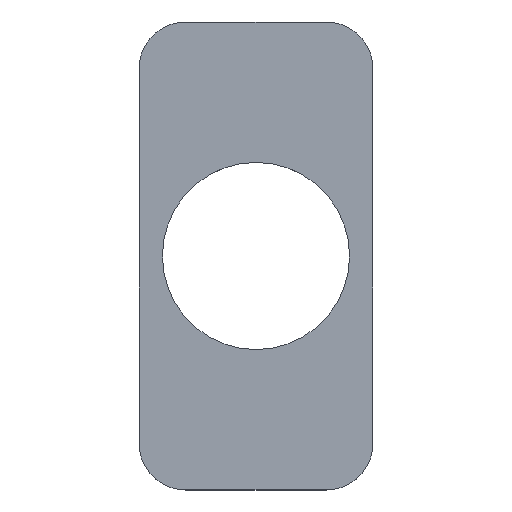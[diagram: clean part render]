
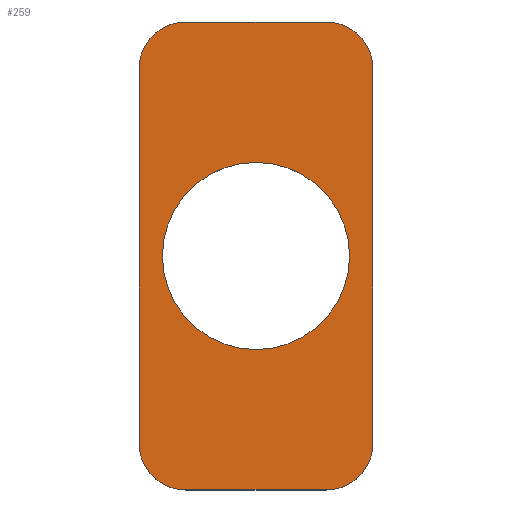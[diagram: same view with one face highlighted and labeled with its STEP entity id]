
A CAD part, top view. The second image highlights one B-rep face of the part: STEP entity #259.
In plain terms, the highlighted planar face has unit normal (0, 0, 1).
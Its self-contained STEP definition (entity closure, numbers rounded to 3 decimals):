
#18=FACE_BOUND('',#59,.T.);
#22=PLANE('',#306);
#39=FACE_OUTER_BOUND('',#58,.T.);
#58=EDGE_LOOP('',(#204,#205,#206,#207,#208,#209,#210,#211));
#59=EDGE_LOOP('',(#212));
#76=LINE('',#446,#96);
#77=LINE('',#450,#97);
#78=LINE('',#454,#98);
#79=LINE('',#458,#99);
#96=VECTOR('',#363,10.);
#97=VECTOR('',#366,10.);
#98=VECTOR('',#369,10.);
#99=VECTOR('',#372,10.);
#112=CIRCLE('',#294,10.);
#121=CIRCLE('',#307,5.);
#122=CIRCLE('',#308,5.);
#123=CIRCLE('',#309,5.);
#124=CIRCLE('',#310,5.);
#127=VERTEX_POINT('',#413);
#140=VERTEX_POINT('',#444);
#141=VERTEX_POINT('',#445);
#142=VERTEX_POINT('',#447);
#143=VERTEX_POINT('',#449);
#144=VERTEX_POINT('',#451);
#145=VERTEX_POINT('',#453);
#146=VERTEX_POINT('',#455);
#147=VERTEX_POINT('',#457);
#152=EDGE_CURVE('',#127,#127,#112,.T.);
#165=EDGE_CURVE('',#140,#141,#76,.T.);
#166=EDGE_CURVE('',#141,#142,#121,.T.);
#167=EDGE_CURVE('',#142,#143,#77,.T.);
#168=EDGE_CURVE('',#143,#144,#122,.T.);
#169=EDGE_CURVE('',#144,#145,#78,.T.);
#170=EDGE_CURVE('',#145,#146,#123,.T.);
#171=EDGE_CURVE('',#146,#147,#79,.T.);
#172=EDGE_CURVE('',#147,#140,#124,.T.);
#204=ORIENTED_EDGE('',*,*,#165,.T.);
#205=ORIENTED_EDGE('',*,*,#166,.T.);
#206=ORIENTED_EDGE('',*,*,#167,.T.);
#207=ORIENTED_EDGE('',*,*,#168,.T.);
#208=ORIENTED_EDGE('',*,*,#169,.T.);
#209=ORIENTED_EDGE('',*,*,#170,.T.);
#210=ORIENTED_EDGE('',*,*,#171,.T.);
#211=ORIENTED_EDGE('',*,*,#172,.T.);
#212=ORIENTED_EDGE('',*,*,#152,.T.);
#259=ADVANCED_FACE('',(#39,#18),#22,.T.);
#294=AXIS2_PLACEMENT_3D('',#415,#333,#334);
#306=AXIS2_PLACEMENT_3D('',#443,#361,#362);
#307=AXIS2_PLACEMENT_3D('',#448,#364,#365);
#308=AXIS2_PLACEMENT_3D('',#452,#367,#368);
#309=AXIS2_PLACEMENT_3D('',#456,#370,#371);
#310=AXIS2_PLACEMENT_3D('',#459,#373,#374);
#333=DIRECTION('center_axis',(0.,0.,-1.));
#334=DIRECTION('ref_axis',(-1.,0.,0.));
#361=DIRECTION('center_axis',(0.,0.,1.));
#362=DIRECTION('ref_axis',(1.,0.,0.));
#363=DIRECTION('',(-1.,0.,0.));
#364=DIRECTION('center_axis',(0.,0.,1.));
#365=DIRECTION('ref_axis',(0.,1.,0.));
#366=DIRECTION('',(0.,-1.,0.));
#367=DIRECTION('center_axis',(0.,0.,1.));
#368=DIRECTION('ref_axis',(-1.,0.,0.));
#369=DIRECTION('',(1.,0.,0.));
#370=DIRECTION('center_axis',(0.,0.,1.));
#371=DIRECTION('ref_axis',(0.,-1.,0.));
#372=DIRECTION('',(0.,1.,0.));
#373=DIRECTION('center_axis',(0.,0.,1.));
#374=DIRECTION('ref_axis',(1.,0.,0.));
#413=CARTESIAN_POINT('',(10.,0.065,3.6));
#415=CARTESIAN_POINT('Origin',(0.,0.065,3.6));
#443=CARTESIAN_POINT('Origin',(0.,0.065,3.6));
#444=CARTESIAN_POINT('',(7.5,25.065,3.6));
#445=CARTESIAN_POINT('',(-7.5,25.065,3.6));
#446=CARTESIAN_POINT('',(7.5,25.065,3.6));
#447=CARTESIAN_POINT('',(-12.5,20.065,3.6));
#448=CARTESIAN_POINT('Origin',(-7.5,20.065,3.6));
#449=CARTESIAN_POINT('',(-12.5,-19.935,3.6));
#450=CARTESIAN_POINT('',(-12.5,20.065,3.6));
#451=CARTESIAN_POINT('',(-7.5,-24.935,3.6));
#452=CARTESIAN_POINT('Origin',(-7.5,-19.935,3.6));
#453=CARTESIAN_POINT('',(7.5,-24.935,3.6));
#454=CARTESIAN_POINT('',(-7.5,-24.935,3.6));
#455=CARTESIAN_POINT('',(12.5,-19.935,3.6));
#456=CARTESIAN_POINT('Origin',(7.5,-19.935,3.6));
#457=CARTESIAN_POINT('',(12.5,20.065,3.6));
#458=CARTESIAN_POINT('',(12.5,-19.935,3.6));
#459=CARTESIAN_POINT('Origin',(7.5,20.065,3.6));
